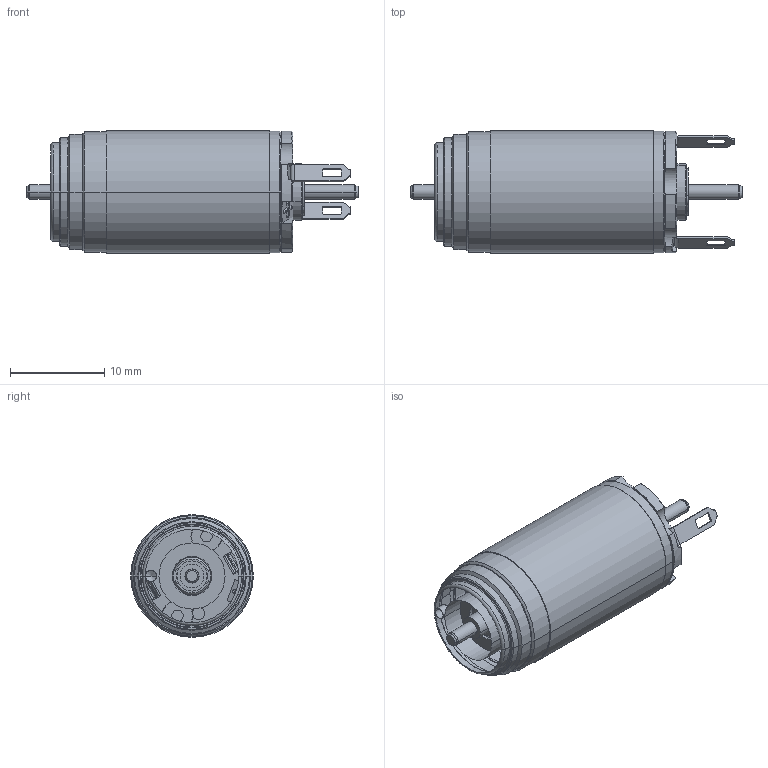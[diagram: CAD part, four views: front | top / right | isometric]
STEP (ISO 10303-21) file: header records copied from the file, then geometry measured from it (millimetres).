
FILE_DESCRIPTION((''),'2;1');
FILE_NAME('118570_15W_2WE_G_SW0001','2016-08-22T',('mmagpetk'),(''),'CREO PARAMETRIC BY PTC INC, 2016050','CREO PARAMETRIC BY PTC INC, 2016050','');
FILE_SCHEMA(('CONFIG_CONTROL_DESIGN'));
Length unit declared in the file: millimetre
Products named in the file (1): 118570_15W_2WE_G_SW0001
Bounding box: 35.2 x 13 x 13 mm (x, y, z)
Volume: 3219.6 mm3; surface area: 1836.7 mm2
Topology: 1 solids, 2 shells, 303 faces, 770 edges, 480 vertices
Faces by surface type: plane 118, cylinder 118, cone 53, torus 10, bspline 4
Entity records: 11904 total; most frequent: CARTESIAN_POINT 1970, DIRECTION 1659, ORIENTED_EDGE 1536, PRESENTATION_STYLE_ASSIGNMENT 769, STYLED_ITEM 769, CURVE_STYLE 768, EDGE_CURVE 768, AXIS2_PLACEMENT_3D 643
